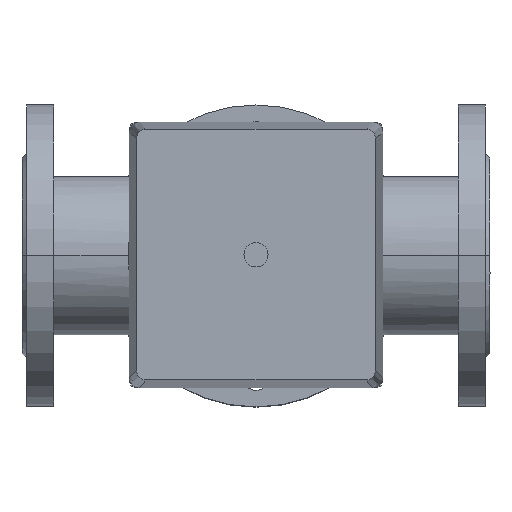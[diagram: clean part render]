
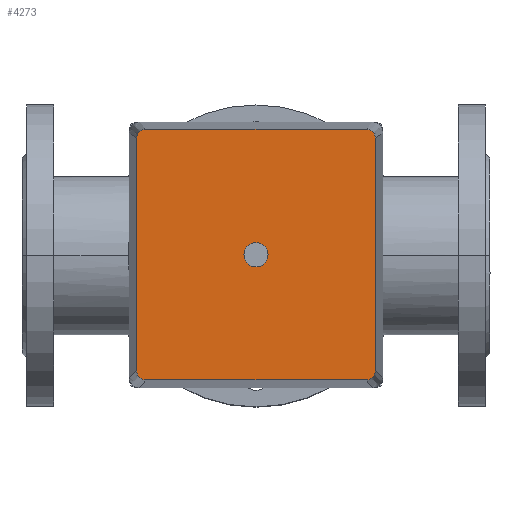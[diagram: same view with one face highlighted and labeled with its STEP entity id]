
A CAD part, top view. The second image highlights one B-rep face of the part: STEP entity #4273.
In plain terms, the highlighted planar face has unit normal (0, 0, 1).
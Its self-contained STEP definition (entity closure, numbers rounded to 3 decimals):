
#352=LINE('',#7370,#600);
#353=LINE('',#7374,#601);
#354=LINE('',#7378,#602);
#355=LINE('',#7382,#603);
#600=VECTOR('',#5983,304.8);
#601=VECTOR('',#5986,304.8);
#602=VECTOR('',#5989,304.8);
#603=VECTOR('',#5992,304.8);
#1065=FACE_OUTER_BOUND('',#1376,.T.);
#1376=EDGE_LOOP('',(#3558,#3559,#3560,#3561,#3562,#3563,#3564,#3565));
#1684=CIRCLE('',#4785,6.);
#1685=CIRCLE('',#4786,6.);
#1686=CIRCLE('',#4787,6.);
#1687=CIRCLE('',#4788,6.);
#2047=VERTEX_POINT('',#7368);
#2048=VERTEX_POINT('',#7369);
#2049=VERTEX_POINT('',#7371);
#2050=VERTEX_POINT('',#7373);
#2051=VERTEX_POINT('',#7375);
#2052=VERTEX_POINT('',#7377);
#2053=VERTEX_POINT('',#7379);
#2054=VERTEX_POINT('',#7381);
#2565=EDGE_CURVE('',#2047,#2048,#352,.T.);
#2566=EDGE_CURVE('',#2048,#2049,#1684,.T.);
#2567=EDGE_CURVE('',#2049,#2050,#353,.T.);
#2568=EDGE_CURVE('',#2050,#2051,#1685,.T.);
#2569=EDGE_CURVE('',#2051,#2052,#354,.T.);
#2570=EDGE_CURVE('',#2052,#2053,#1686,.T.);
#2571=EDGE_CURVE('',#2053,#2054,#355,.T.);
#2572=EDGE_CURVE('',#2054,#2047,#1687,.T.);
#3558=ORIENTED_EDGE('',*,*,#2565,.T.);
#3559=ORIENTED_EDGE('',*,*,#2566,.T.);
#3560=ORIENTED_EDGE('',*,*,#2567,.T.);
#3561=ORIENTED_EDGE('',*,*,#2568,.T.);
#3562=ORIENTED_EDGE('',*,*,#2569,.T.);
#3563=ORIENTED_EDGE('',*,*,#2570,.T.);
#3564=ORIENTED_EDGE('',*,*,#2571,.T.);
#3565=ORIENTED_EDGE('',*,*,#2572,.T.);
#3865=PLANE('',#4784);
#4273=ADVANCED_FACE('',(#1065),#3865,.T.);
#4784=AXIS2_PLACEMENT_3D('',#7367,#5981,#5982);
#4785=AXIS2_PLACEMENT_3D('',#7372,#5984,#5985);
#4786=AXIS2_PLACEMENT_3D('',#7376,#5987,#5988);
#4787=AXIS2_PLACEMENT_3D('',#7380,#5990,#5991);
#4788=AXIS2_PLACEMENT_3D('',#7383,#5993,#5994);
#5981=DIRECTION('center_axis',(0.,0.,1.));
#5982=DIRECTION('ref_axis',(0.,-1.,0.));
#5983=DIRECTION('',(0.,-1.,0.));
#5984=DIRECTION('center_axis',(0.,0.,1.));
#5985=DIRECTION('ref_axis',(1.,0.,0.));
#5986=DIRECTION('',(1.,0.,0.));
#5987=DIRECTION('center_axis',(0.,0.,1.));
#5988=DIRECTION('ref_axis',(1.,0.,0.));
#5989=DIRECTION('',(0.,1.,0.));
#5990=DIRECTION('center_axis',(0.,0.,1.));
#5991=DIRECTION('ref_axis',(1.,0.,0.));
#5992=DIRECTION('',(-1.,0.,0.));
#5993=DIRECTION('center_axis',(0.,0.,1.));
#5994=DIRECTION('ref_axis',(1.,0.,0.));
#7367=CARTESIAN_POINT('Origin',(0.,0.,
265.));
#7368=CARTESIAN_POINT('',(-83.,73.,265.));
#7369=CARTESIAN_POINT('',(-83.,-73.,265.));
#7370=CARTESIAN_POINT('',(-83.,-73.,265.));
#7371=CARTESIAN_POINT('',(-77.,-79.,265.));
#7372=CARTESIAN_POINT('Origin',(-77.,-73.,265.));
#7373=CARTESIAN_POINT('',(77.,-79.,265.));
#7374=CARTESIAN_POINT('',(77.,-79.,265.));
#7375=CARTESIAN_POINT('',(83.,-73.,265.));
#7376=CARTESIAN_POINT('Origin',(77.,-73.,265.));
#7377=CARTESIAN_POINT('',(83.,73.,265.));
#7378=CARTESIAN_POINT('',(83.,73.,265.));
#7379=CARTESIAN_POINT('',(77.,79.,265.));
#7380=CARTESIAN_POINT('Origin',(77.,73.,265.));
#7381=CARTESIAN_POINT('',(-77.,79.,265.));
#7382=CARTESIAN_POINT('',(-77.,79.,265.));
#7383=CARTESIAN_POINT('Origin',(-77.,73.,265.));
